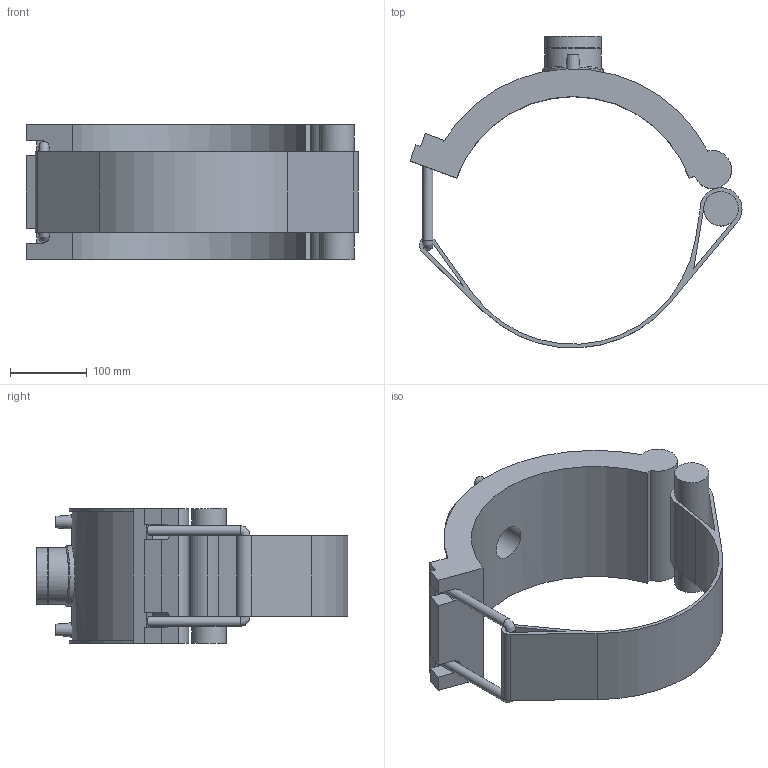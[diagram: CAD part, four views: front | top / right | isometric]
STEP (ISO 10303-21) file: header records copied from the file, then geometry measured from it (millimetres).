
FILE_DESCRIPTION(/* description */ ('PLASSON TRANSITION SADDLE 12''''IPS x 2"NPT'),/* implementation_level */ '2;1');
FILE_NAME(/* name */ 'C:\Dropbox\KIMPROJECTS-Inventor 2019\99-16-3568-Processing Inch\ASTM ElectroFusion 2021\5938B\5938B01312070.ipt.stp',/* time_stamp */ '2021-08-30T09:51:47+03:00',/* author */ ('KIM'),/* organization */ (''),/* preprocessor_version */ 'ST-DEVELOPER v17.2',/* originating_system */ 'Autodesk Inventor 2019',/* authorisation */ '');
FILE_SCHEMA (('AUTOMOTIVE_DESIGN { 1 0 10303 214 3 1 1 }'));
Length unit declared in the file: inch
Products named in the file (1): 5938B01312070
Bounding box: 433.39 x 407.09 x 176.02 mm (x, y, z)
Volume: 3748565.1 mm3; surface area: 456333.7 mm2
Topology: 1 solids, 1 shells, 78 faces, 202 edges, 132 vertices
Faces by surface type: plane 42, cylinder 28, cone 5, torus 2, bspline 1
Full cylindrical faces by diameter (mm): 4 x2, 10 x2, 12.936 x2, 45.027 x1, 45.325 x1, 56.656 x1, 72.653 x1, 73.653 x2, 79.318 x1
Entity records: 2885 total; most frequent: CARTESIAN_POINT 850, DIRECTION 422, ORIENTED_EDGE 406, EDGE_CURVE 203, AXIS2_PLACEMENT_3D 154, VERTEX_POINT 132, LINE 114, VECTOR 114
